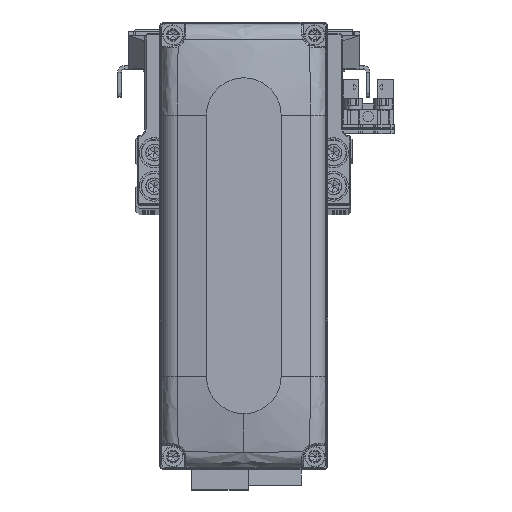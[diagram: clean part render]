
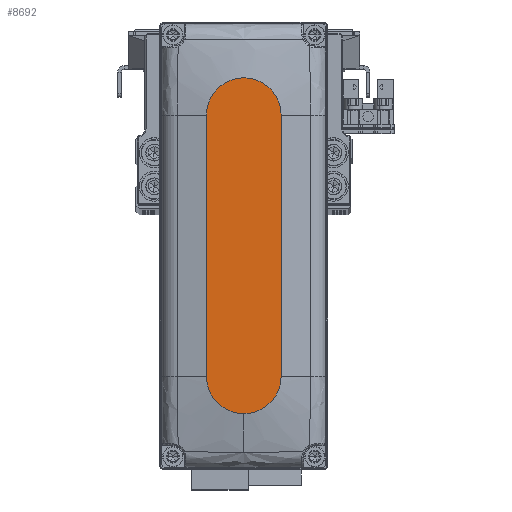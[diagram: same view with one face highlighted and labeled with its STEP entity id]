
A CAD part, top view. The second image highlights one B-rep face of the part: STEP entity #8692.
In plain terms, the highlighted planar face has unit normal (0, 0, 1).
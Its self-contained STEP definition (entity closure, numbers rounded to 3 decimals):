
#523 = VERTEX_POINT ( 'NONE', #32481 ) ;
#605 = VERTEX_POINT ( 'NONE', #40037 ) ;
#3419 = DIRECTION ( 'NONE',  ( 0., 0., 1. ) ) ;
#3720 = DIRECTION ( 'NONE',  ( -1., 0., 0. ) ) ;
#5769 = EDGE_CURVE ( 'NONE', #10485, #605, #28229, .T. ) ;
#6149 = ORIENTED_EDGE ( 'NONE', *, *, #14473, .T. ) ;
#6529 = DIRECTION ( 'NONE',  ( 1., 0., 0. ) ) ;
#6880 = EDGE_CURVE ( 'NONE', #605, #29585, #39614, .T. ) ;
#7664 = CARTESIAN_POINT ( 'NONE',  ( 35., 0., 28. ) ) ;
#7955 = VERTEX_POINT ( 'NONE', #41428 ) ;
#8171 = CARTESIAN_POINT ( 'NONE',  ( -35., -10., 28. ) ) ;
#8692 = ADVANCED_FACE ( 'NONE', ( #15897 ), #29877, .T. ) ;
#9686 = EDGE_LOOP ( 'NONE', ( #32757, #11850, #22389, #6149, #40167 ) ) ;
#10485 = VERTEX_POINT ( 'NONE', #11255 ) ;
#11255 = CARTESIAN_POINT ( 'NONE',  ( -35., 10., 28. ) ) ;
#11850 = ORIENTED_EDGE ( 'NONE', *, *, #5769, .T. ) ;
#12428 = DIRECTION ( 'NONE',  ( 0., 0., 1. ) ) ;
#14473 = EDGE_CURVE ( 'NONE', #29585, #523, #19269, .T. ) ;
#15897 = FACE_OUTER_BOUND ( 'NONE', #9686, .T. ) ;
#17457 = DIRECTION ( 'NONE',  ( 1., 0., 0. ) ) ;
#18295 = CIRCLE ( 'NONE', #43904, 10. ) ;
#19269 = CIRCLE ( 'NONE', #44868, 10. ) ;
#21193 = LINE ( 'NONE', #35172, #37420 ) ;
#21693 = DIRECTION ( 'NONE',  ( 0., 0., 1. ) ) ;
#21936 = EDGE_CURVE ( 'NONE', #7955, #10485, #21193, .T. ) ;
#22205 = DIRECTION ( 'NONE',  ( 1., 0., 0. ) ) ;
#22389 = ORIENTED_EDGE ( 'NONE', *, *, #6880, .T. ) ;
#23926 = CARTESIAN_POINT ( 'NONE',  ( 35., -10., 28. ) ) ;
#23993 = CARTESIAN_POINT ( 'NONE',  ( -35., 0., 28. ) ) ;
#26450 = DIRECTION ( 'NONE',  ( 1., 0., 0. ) ) ;
#28229 = CIRCLE ( 'NONE', #34077, 10. ) ;
#29585 = VERTEX_POINT ( 'NONE', #23926 ) ;
#29877 = PLANE ( 'NONE',  #38445 ) ;
#31052 = EDGE_CURVE ( 'NONE', #523, #7955, #18295, .T. ) ;
#32481 = CARTESIAN_POINT ( 'NONE',  ( 45., 0., 28. ) ) ;
#32757 = ORIENTED_EDGE ( 'NONE', *, *, #21936, .T. ) ;
#34077 = AXIS2_PLACEMENT_3D ( 'NONE', #23993, #37970, #6529 ) ;
#34873 = CARTESIAN_POINT ( 'NONE',  ( 35., 0., 28. ) ) ;
#35172 = CARTESIAN_POINT ( 'NONE',  ( -35., 10., 28. ) ) ;
#35668 = DIRECTION ( 'NONE',  ( 1., 0., 0. ) ) ;
#37420 = VECTOR ( 'NONE', #3720, 1000. ) ;
#37970 = DIRECTION ( 'NONE',  ( 0., 0., 1. ) ) ;
#38445 = AXIS2_PLACEMENT_3D ( 'NONE', #43841, #12428, #26450 ) ;
#39614 = LINE ( 'NONE', #8171, #39905 ) ;
#39905 = VECTOR ( 'NONE', #22205, 1000. ) ;
#40037 = CARTESIAN_POINT ( 'NONE',  ( -35., -10., 28. ) ) ;
#40167 = ORIENTED_EDGE ( 'NONE', *, *, #31052, .T. ) ;
#41428 = CARTESIAN_POINT ( 'NONE',  ( 35., 10., 28. ) ) ;
#43841 = CARTESIAN_POINT ( 'NONE',  ( 0., 0., 28. ) ) ;
#43904 = AXIS2_PLACEMENT_3D ( 'NONE', #7664, #21693, #35668 ) ;
#44868 = AXIS2_PLACEMENT_3D ( 'NONE', #34873, #3419, #17457 ) ;
